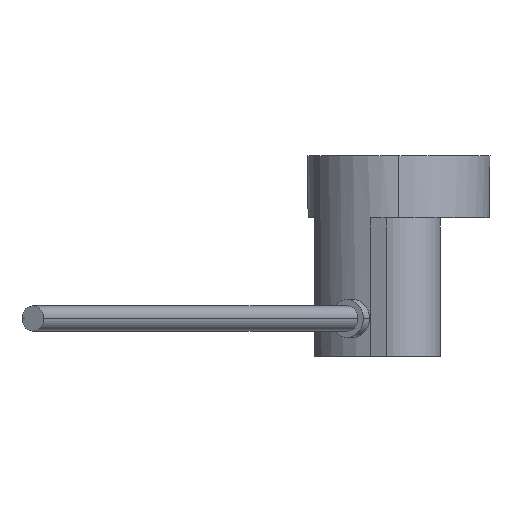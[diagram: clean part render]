
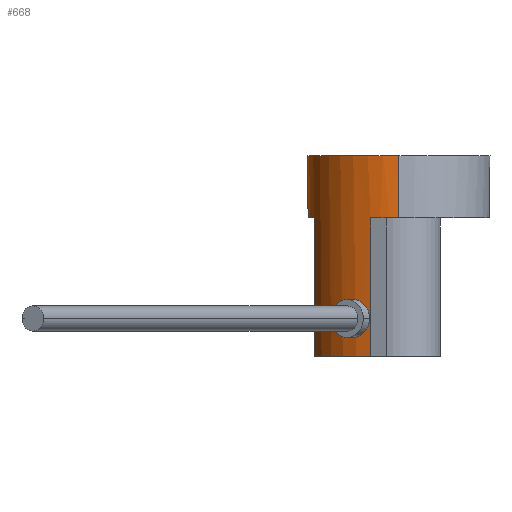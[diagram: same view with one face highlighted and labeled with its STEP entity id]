
A CAD part, left-side view. The second image highlights one B-rep face of the part: STEP entity #668.
In plain terms, the highlighted cylindrical face has radius 14.5 mm (diameter 29 mm), a partial arc.
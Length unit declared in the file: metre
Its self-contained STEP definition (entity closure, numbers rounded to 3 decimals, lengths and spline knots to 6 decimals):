
#4 = CARTESIAN_POINT ( 'NONE',  ( -0.013783, 0.004502, -0.01595 ) ) ;
#7 = CARTESIAN_POINT ( 'NONE',  ( 0., 0., -0.0319 ) ) ;
#44 = CARTESIAN_POINT ( 'NONE',  ( -0.005411, 0.013453, -0.0319 ) ) ;
#53 = ORIENTED_EDGE ( 'NONE', *, *, #630, .F. ) ;
#55 = AXIS2_PLACEMENT_3D ( 'NONE', #7, #248, #314 ) ;
#62 = DIRECTION ( 'NONE',  ( 1., 0., 0. ) ) ;
#111 = DIRECTION ( 'NONE',  ( 0., 0., -1. ) ) ;
#115 = DIRECTION ( 'NONE',  ( 1., 0., 0. ) ) ;
#119 = LINE ( 'NONE', #4, #401 ) ;
#122 = CIRCLE ( 'NONE', #305, 0.0145 ) ;
#123 = CARTESIAN_POINT ( 'NONE',  ( -0.0145, 0., -0.0099 ) ) ;
#127 = DIRECTION ( 'NONE',  ( 1., 0., 0. ) ) ;
#132 = FACE_OUTER_BOUND ( 'NONE', #632, .T. ) ;
#162 = CARTESIAN_POINT ( 'NONE',  ( 0.010885, 0.00958, -0.0099 ) ) ;
#168 = CARTESIAN_POINT ( 'NONE',  ( 0., 0., -0.0319 ) ) ;
#172 = CARTESIAN_POINT ( 'NONE',  ( -0.0145, 0., 0. ) ) ;
#179 = VERTEX_POINT ( 'NONE', #44 ) ;
#185 = LINE ( 'NONE', #642, #369 ) ;
#194 = CARTESIAN_POINT ( 'NONE',  ( -0.005411, 0.013453, -0.0099 ) ) ;
#199 = VERTEX_POINT ( 'NONE', #123 ) ;
#218 = ORIENTED_EDGE ( 'NONE', *, *, #585, .F. ) ;
#231 = DIRECTION ( 'NONE',  ( 0., 0., -1. ) ) ;
#245 = VECTOR ( 'NONE', #714, 1. ) ;
#248 = DIRECTION ( 'NONE',  ( 0., 0., -1. ) ) ;
#262 = EDGE_CURVE ( 'NONE', #199, #574, #509, .T. ) ;
#266 = CARTESIAN_POINT ( 'NONE',  ( -0.005411, 0.013453, -0.01595 ) ) ;
#278 = CARTESIAN_POINT ( 'NONE',  ( 0., 0., -0.0099 ) ) ;
#305 = AXIS2_PLACEMENT_3D ( 'NONE', #545, #363, #62 ) ;
#307 = CIRCLE ( 'NONE', #55, 0.0145 ) ;
#309 = ORIENTED_EDGE ( 'NONE', *, *, #262, .T. ) ;
#314 = DIRECTION ( 'NONE',  ( 1., 0., 0. ) ) ;
#318 = VERTEX_POINT ( 'NONE', #577 ) ;
#329 = VERTEX_POINT ( 'NONE', #459 ) ;
#354 = CYLINDRICAL_SURFACE ( 'NONE', #576, 0.0145 ) ;
#360 = DIRECTION ( 'NONE',  ( 0., 0., 1. ) ) ;
#363 = DIRECTION ( 'NONE',  ( 0., 0., 1. ) ) ;
#365 = ORIENTED_EDGE ( 'NONE', *, *, #370, .F. ) ;
#369 = VECTOR ( 'NONE', #111, 1. ) ;
#370 = EDGE_CURVE ( 'NONE', #179, #753, #575, .T. ) ;
#372 = VERTEX_POINT ( 'NONE', #555 ) ;
#376 = EDGE_CURVE ( 'NONE', #753, #505, #528, .T. ) ;
#380 = ORIENTED_EDGE ( 'NONE', *, *, #675, .F. ) ;
#384 = ORIENTED_EDGE ( 'NONE', *, *, #552, .F. ) ;
#401 = VECTOR ( 'NONE', #600, 1. ) ;
#404 = DIRECTION ( 'NONE',  ( 1., 0., 0. ) ) ;
#419 = DIRECTION ( 'NONE',  ( 0., 0., -1. ) ) ;
#420 = CARTESIAN_POINT ( 'NONE',  ( 0.0145, 0., -0.0319 ) ) ;
#459 = CARTESIAN_POINT ( 'NONE',  ( 0.0145, 0., 0. ) ) ;
#464 = CARTESIAN_POINT ( 'NONE',  ( 0., 0., -0.0099 ) ) ;
#476 = CIRCLE ( 'NONE', #672, 0.0145 ) ;
#505 = VERTEX_POINT ( 'NONE', #162 ) ;
#506 = VERTEX_POINT ( 'NONE', #629 ) ;
#507 = DIRECTION ( 'NONE',  ( 1., 0., 0. ) ) ;
#509 = LINE ( 'NONE', #694, #742 ) ;
#512 = DIRECTION ( 'NONE',  ( 0., 0., -1. ) ) ;
#515 = CARTESIAN_POINT ( 'NONE',  ( -0.013783, 0.004502, -0.0319 ) ) ;
#524 = AXIS2_PLACEMENT_3D ( 'NONE', #278, #231, #115 ) ;
#528 = CIRCLE ( 'NONE', #618, 0.0145 ) ;
#539 = VERTEX_POINT ( 'NONE', #515 ) ;
#545 = CARTESIAN_POINT ( 'NONE',  ( 0., 0., 0. ) ) ;
#552 = EDGE_CURVE ( 'NONE', #539, #179, #476, .T. ) ;
#555 = CARTESIAN_POINT ( 'NONE',  ( 0.010885, 0.00958, -0.0319 ) ) ;
#567 = VECTOR ( 'NONE', #647, 1. ) ;
#574 = VERTEX_POINT ( 'NONE', #172 ) ;
#575 = LINE ( 'NONE', #266, #245 ) ;
#576 = AXIS2_PLACEMENT_3D ( 'NONE', #651, #360, #127 ) ;
#577 = CARTESIAN_POINT ( 'NONE',  ( 0.0145, 0., -0.0319 ) ) ;
#585 = EDGE_CURVE ( 'NONE', #505, #372, #185, .T. ) ;
#600 = DIRECTION ( 'NONE',  ( 0., 0., -1. ) ) ;
#609 = EDGE_CURVE ( 'NONE', #318, #329, #741, .T. ) ;
#618 = AXIS2_PLACEMENT_3D ( 'NONE', #464, #512, #507 ) ;
#629 = CARTESIAN_POINT ( 'NONE',  ( -0.013783, 0.004502, -0.0099 ) ) ;
#630 = EDGE_CURVE ( 'NONE', #199, #506, #717, .T. ) ;
#632 = EDGE_LOOP ( 'NONE', ( #53, #309, #380, #655, #740, #218, #678, #365, #384, #724 ) ) ;
#642 = CARTESIAN_POINT ( 'NONE',  ( 0.010885, 0.00958, -0.01595 ) ) ;
#647 = DIRECTION ( 'NONE',  ( 0., 0., 1. ) ) ;
#651 = CARTESIAN_POINT ( 'NONE',  ( 0., 0., -0.0319 ) ) ;
#655 = ORIENTED_EDGE ( 'NONE', *, *, #609, .F. ) ;
#668 = ADVANCED_FACE ( 'NONE', ( #132 ), #354, .T. ) ;
#672 = AXIS2_PLACEMENT_3D ( 'NONE', #168, #419, #404 ) ;
#675 = EDGE_CURVE ( 'NONE', #329, #574, #122, .T. ) ;
#678 = ORIENTED_EDGE ( 'NONE', *, *, #376, .F. ) ;
#685 = EDGE_CURVE ( 'NONE', #506, #539, #119, .T. ) ;
#694 = CARTESIAN_POINT ( 'NONE',  ( -0.0145, 0., -0.0319 ) ) ;
#714 = DIRECTION ( 'NONE',  ( 0., 0., 1. ) ) ;
#717 = CIRCLE ( 'NONE', #524, 0.0145 ) ;
#724 = ORIENTED_EDGE ( 'NONE', *, *, #685, .F. ) ;
#740 = ORIENTED_EDGE ( 'NONE', *, *, #772, .F. ) ;
#741 = LINE ( 'NONE', #420, #567 ) ;
#742 = VECTOR ( 'NONE', #773, 1. ) ;
#753 = VERTEX_POINT ( 'NONE', #194 ) ;
#772 = EDGE_CURVE ( 'NONE', #372, #318, #307, .T. ) ;
#773 = DIRECTION ( 'NONE',  ( 0., 0., 1. ) ) ;
